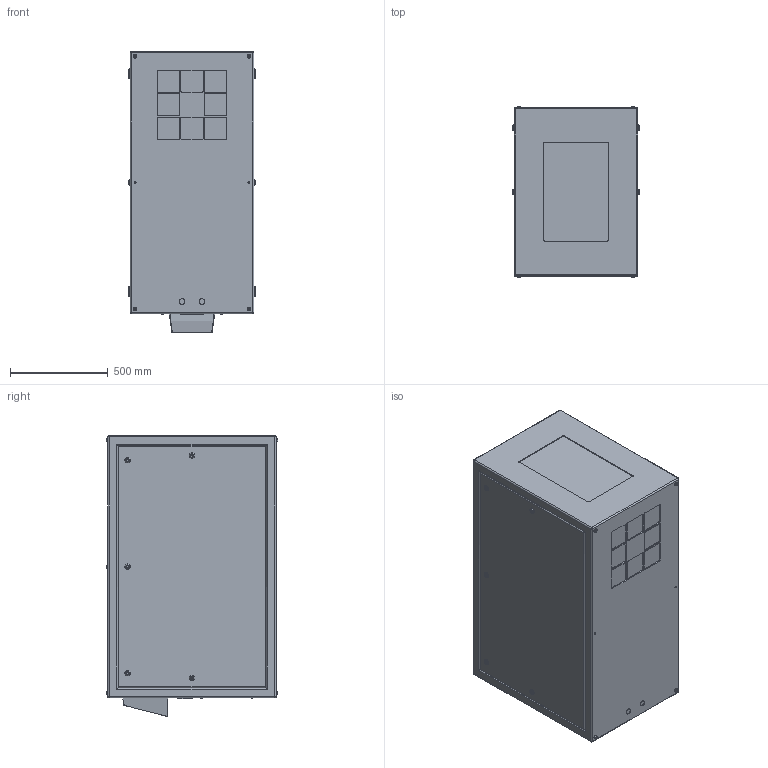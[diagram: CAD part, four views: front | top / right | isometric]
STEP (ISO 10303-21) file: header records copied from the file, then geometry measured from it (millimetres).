
FILE_DESCRIPTION (( 'STEP AP214' ), '1' );
FILE_NAME ('Cyclone 55.240.P.xx R08.STEP', '2020-04-07T14:43:49', ( '' ), ( '' ), 'SwSTEP 2.0', 'SolidWorks 2018', '' );
FILE_SCHEMA (( 'AUTOMOTIVE_DESIGN' ));
Length unit declared in the file: inch
Products named in the file (1): Cyclone 55.240.P.xx R08
Bounding box: 647.7 x 878.33 x 1441.45 mm (x, y, z)
Volume: 736173223.7 mm3; surface area: 5759344.5 mm2
Topology: 1 solids, 1 shells, 539 faces, 1254 edges, 800 vertices
Faces by surface type: plane 293, cylinder 186, torus 52, sphere 8
Entity records: 20092 total; most frequent: DIRECTION 2754, CARTESIAN_POINT 2634, ORIENTED_EDGE 2492, EDGE_CURVE 1246, AXIS2_PLACEMENT_3D 984, VERTEX_POINT 800, LINE 786, VECTOR 786
